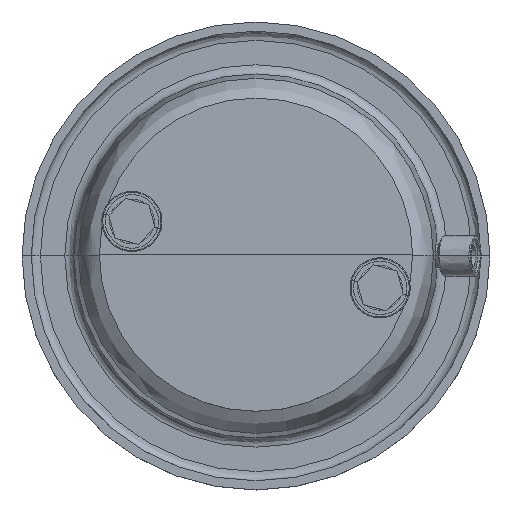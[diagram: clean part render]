
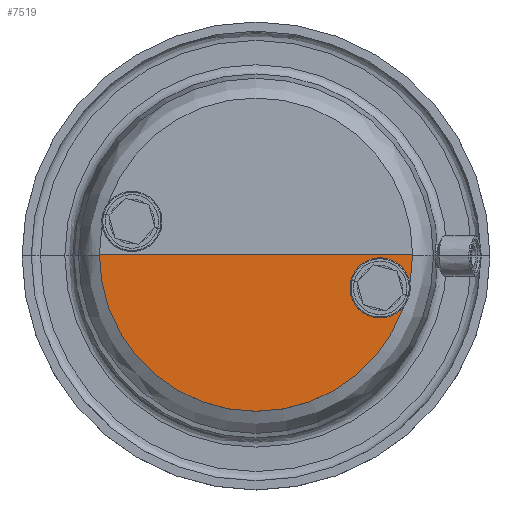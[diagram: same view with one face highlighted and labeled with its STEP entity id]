
A CAD part, top view. The second image highlights one B-rep face of the part: STEP entity #7519.
In plain terms, the highlighted planar face has unit normal (0, 0, 1).
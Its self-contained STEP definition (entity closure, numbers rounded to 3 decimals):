
#526=LINE('',#14500,#894);
#894=VECTOR('',#10083,304.8);
#1515=FACE_OUTER_BOUND('',#2051,.T.);
#2051=EDGE_LOOP('',(#5613,#5614));
#2670=CIRCLE('',#8358,85.362);
#3231=VERTEX_POINT('',#14497);
#3232=VERTEX_POINT('',#14498);
#4030=EDGE_CURVE('',#3232,#3231,#526,.T.);
#4031=EDGE_CURVE('',#3232,#3231,#2670,.T.);
#5613=ORIENTED_EDGE('',*,*,#4031,.T.);
#5614=ORIENTED_EDGE('',*,*,#4030,.F.);
#6625=PLANE('',#8357);
#7519=ADVANCED_FACE('',(#1515),#6625,.F.);
#8357=AXIS2_PLACEMENT_3D('',#14501,#10084,#10085);
#8358=AXIS2_PLACEMENT_3D('',#14502,#10086,#10087);
#10083=DIRECTION('',(1.,0.,0.));
#10084=DIRECTION('center_axis',(0.,0.,-1.));
#10085=DIRECTION('ref_axis',(-1.,0.,0.));
#10086=DIRECTION('center_axis',(0.,0.,1.));
#10087=DIRECTION('ref_axis',(-1.,0.,0.));
#14497=CARTESIAN_POINT('',(85.362,0.,566.029));
#14498=CARTESIAN_POINT('',(-85.362,0.,566.029));
#14500=CARTESIAN_POINT('',(-85.362,0.,566.029));
#14501=CARTESIAN_POINT('Origin',(0.,0.,566.029));
#14502=CARTESIAN_POINT('Origin',(0.,0.,566.029));
